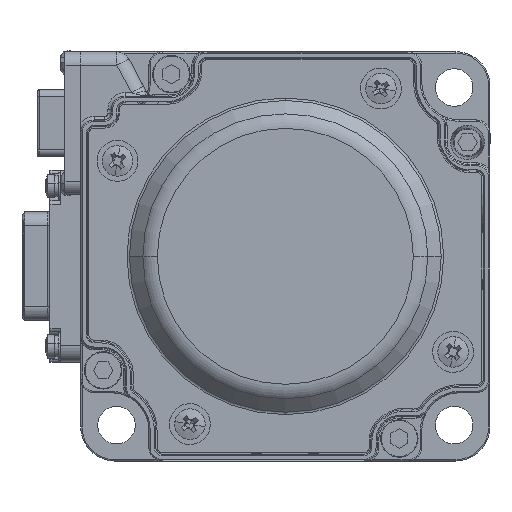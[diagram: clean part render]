
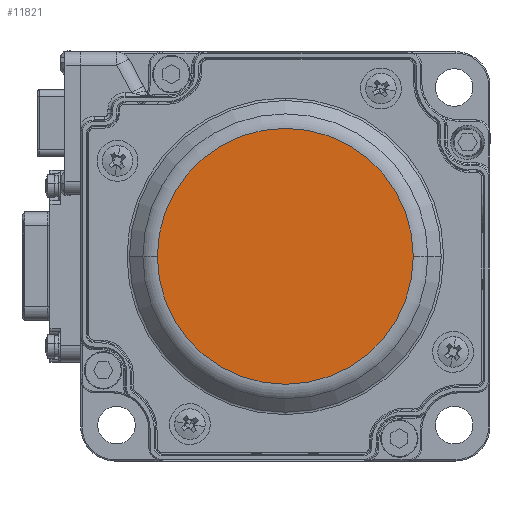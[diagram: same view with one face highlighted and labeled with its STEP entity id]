
A CAD part, left-side view. The second image highlights one B-rep face of the part: STEP entity #11821.
In plain terms, the highlighted planar face has unit normal (-1, 0, 0).
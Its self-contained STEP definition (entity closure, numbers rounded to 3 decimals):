
#4822 = EDGE_CURVE ( 'NONE', #39801, #39267, #47265, .T. ) ;
#8369 = DIRECTION ( 'NONE',  ( 0., 1., 0. ) ) ;
#11821 = ADVANCED_FACE ( 'NONE', ( #37142 ), #54396, .F. ) ;
#12687 = CARTESIAN_POINT ( 'NONE',  ( -95.235, -25.559, 175.214 ) ) ;
#15540 = DIRECTION ( 'NONE',  ( 1., 0., 0. ) ) ;
#16929 = DIRECTION ( 'NONE',  ( -1., 0., 0. ) ) ;
#19266 = EDGE_LOOP ( 'NONE', ( #33962, #40698 ) ) ;
#23180 = AXIS2_PLACEMENT_3D ( 'NONE', #25805, #16929, #8369 ) ;
#25805 = CARTESIAN_POINT ( 'NONE',  ( -95.235, -6.802, 175.214 ) ) ;
#33570 = DIRECTION ( 'NONE',  ( 0., 1., 0. ) ) ;
#33740 = AXIS2_PLACEMENT_3D ( 'NONE', #56708, #15540, #33570 ) ;
#33962 = ORIENTED_EDGE ( 'NONE', *, *, #4822, .T. ) ;
#37142 = FACE_OUTER_BOUND ( 'NONE', #19266, .T. ) ;
#38573 = DIRECTION ( 'NONE',  ( 0., 1., 0. ) ) ;
#39179 = DIRECTION ( 'NONE',  ( -1., 0., 0. ) ) ;
#39267 = VERTEX_POINT ( 'NONE', #12687 ) ;
#39801 = VERTEX_POINT ( 'NONE', #51605 ) ;
#40698 = ORIENTED_EDGE ( 'NONE', *, *, #55488, .T. ) ;
#43628 = CARTESIAN_POINT ( 'NONE',  ( -95.235, -6.802, 175.214 ) ) ;
#47265 = CIRCLE ( 'NONE', #57851, 18.757 ) ;
#51576 = CIRCLE ( 'NONE', #23180, 18.757 ) ;
#51605 = CARTESIAN_POINT ( 'NONE',  ( -95.235, 11.955, 175.214 ) ) ;
#54396 = PLANE ( 'NONE',  #33740 ) ;
#55488 = EDGE_CURVE ( 'NONE', #39267, #39801, #51576, .T. ) ;
#56708 = CARTESIAN_POINT ( 'NONE',  ( -95.235, 13.198, 175.214 ) ) ;
#57851 = AXIS2_PLACEMENT_3D ( 'NONE', #43628, #39179, #38573 ) ;
